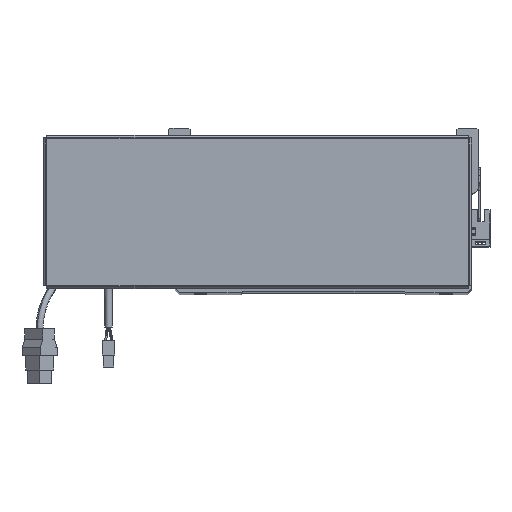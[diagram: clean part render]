
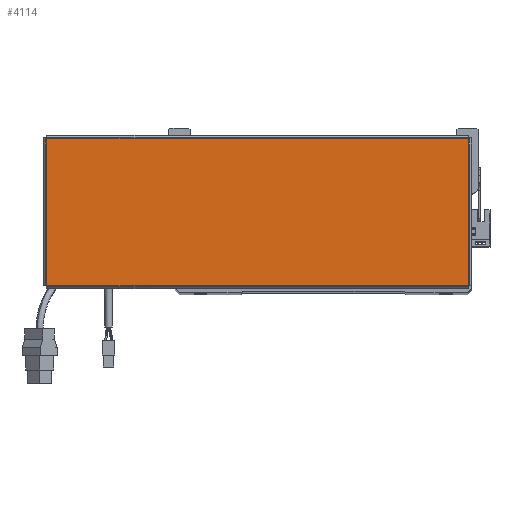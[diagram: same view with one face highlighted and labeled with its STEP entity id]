
A CAD part, top view. The second image highlights one B-rep face of the part: STEP entity #4114.
In plain terms, the highlighted planar face has unit normal (0, 0, 1).
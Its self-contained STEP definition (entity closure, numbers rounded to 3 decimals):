
#1574 = VERTEX_POINT ( 'NONE', #42839 ) ;
#3630 = LINE ( 'NONE', #7044, #48349 ) ;
#3737 = CARTESIAN_POINT ( 'NONE',  ( 0., 0., 0. ) ) ;
#4114 = ADVANCED_FACE ( 'NONE', ( #22948 ), #55990, .T. ) ;
#4926 = CARTESIAN_POINT ( 'NONE',  ( 156.543, 54.763, 0. ) ) ;
#7044 = CARTESIAN_POINT ( 'NONE',  ( -156.543, -54.763, 0. ) ) ;
#9572 = ORIENTED_EDGE ( 'NONE', *, *, #64984, .T. ) ;
#12896 = ORIENTED_EDGE ( 'NONE', *, *, #26303, .T. ) ;
#18360 = VERTEX_POINT ( 'NONE', #66989 ) ;
#19083 = LINE ( 'NONE', #4926, #47512 ) ;
#19599 = DIRECTION ( 'NONE',  ( 1., 0., 0. ) ) ;
#20323 = DIRECTION ( 'NONE',  ( -1., 0., 0. ) ) ;
#22948 = FACE_OUTER_BOUND ( 'NONE', #31073, .T. ) ;
#24191 = LINE ( 'NONE', #29918, #64916 ) ;
#24537 = EDGE_CURVE ( 'NONE', #43058, #18360, #24191, .T. ) ;
#26303 = EDGE_CURVE ( 'NONE', #18360, #43377, #19083, .T. ) ;
#27921 = CARTESIAN_POINT ( 'NONE',  ( -156.513, 54.763, 0. ) ) ;
#29350 = AXIS2_PLACEMENT_3D ( 'NONE', #3737, #45536, #19599 ) ;
#29470 = DIRECTION ( 'NONE',  ( 0., 1., 0. ) ) ;
#29918 = CARTESIAN_POINT ( 'NONE',  ( 156.513, -54.793, 0. ) ) ;
#31073 = EDGE_LOOP ( 'NONE', ( #57508, #66051, #12896, #9572 ) ) ;
#31114 = VECTOR ( 'NONE', #60973, 1000. ) ;
#39557 = CARTESIAN_POINT ( 'NONE',  ( -156.513, 54.793, 0. ) ) ;
#42839 = CARTESIAN_POINT ( 'NONE',  ( -156.513, -54.763, 0. ) ) ;
#43058 = VERTEX_POINT ( 'NONE', #51860 ) ;
#43377 = VERTEX_POINT ( 'NONE', #27921 ) ;
#45536 = DIRECTION ( 'NONE',  ( 0., 0., 1. ) ) ;
#45798 = EDGE_CURVE ( 'NONE', #1574, #43058, #3630, .T. ) ;
#46578 = LINE ( 'NONE', #39557, #31114 ) ;
#47512 = VECTOR ( 'NONE', #20323, 1000. ) ;
#48349 = VECTOR ( 'NONE', #49072, 1000. ) ;
#49072 = DIRECTION ( 'NONE',  ( 1., 0., 0. ) ) ;
#51860 = CARTESIAN_POINT ( 'NONE',  ( 156.513, -54.763, 0. ) ) ;
#55990 = PLANE ( 'NONE',  #29350 ) ;
#57508 = ORIENTED_EDGE ( 'NONE', *, *, #45798, .T. ) ;
#60973 = DIRECTION ( 'NONE',  ( 0., -1., 0. ) ) ;
#64916 = VECTOR ( 'NONE', #29470, 1000. ) ;
#64984 = EDGE_CURVE ( 'NONE', #43377, #1574, #46578, .T. ) ;
#66051 = ORIENTED_EDGE ( 'NONE', *, *, #24537, .T. ) ;
#66989 = CARTESIAN_POINT ( 'NONE',  ( 156.513, 54.763, 0. ) ) ;
